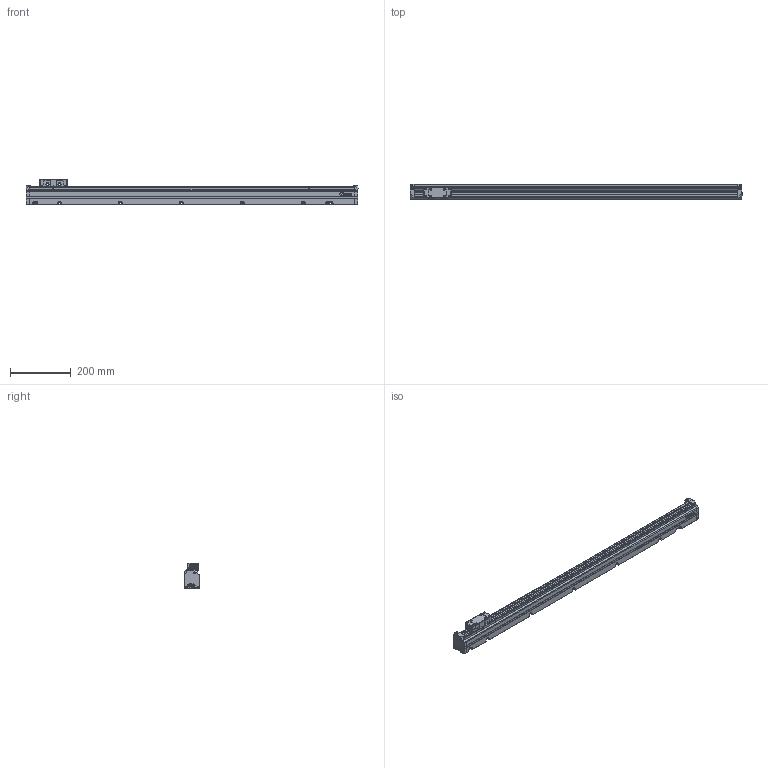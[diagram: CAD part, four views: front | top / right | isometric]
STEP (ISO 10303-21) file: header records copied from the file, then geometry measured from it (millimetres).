
FILE_DESCRIPTION(('Creo Elements/Direct Modeling STEP Export'),'2;1');
FILE_NAME('REGLA_L3_840_M.stp','2020-12-16T14:26:02',(''),(''),'Creo Elements/Direct Modeling STEP processor for AP214 (Solid Model)','Creo Elements/Direct Modeling 19.0G 27-Nov-2017 (C) Parametric Technology GmbH','');
FILE_SCHEMA(('AUTOMOTIVE_DESIGN { 1 0 10303 214 1 1 1 1 }'));
Length unit declared in the file: millimetre
Products named in the file (3): REGLA_L3_840_M; CABEZA_L3_M8
Assembly tree (2 placements, depth 2):
  REGLA_L3_840_M
    CABEZA_L3_M8
    REGLA_L3_840_M
Bounding box: 1090 x 50 x 85 mm (x, y, z)
Volume: 2900951.6 mm3; surface area: 301762 mm2
Topology: 2 solids, 2 shells, 1429 faces, 3812 edges, 2455 vertices
Faces by surface type: plane 703, cylinder 450, cone 153, bspline 63, torus 52, extrusion 6, sphere 2
Entity records: 63757 total; most frequent: CARTESIAN_POINT 23381, ORIENTED_EDGE 7600, DIRECTION 6677, EDGE_CURVE 3800, VERTEX_POINT 2455, AXIS2_PLACEMENT_3D 2241, VECTOR 2195, LINE 2189
